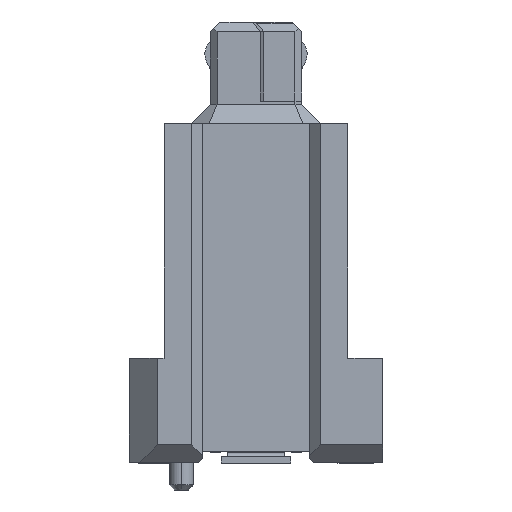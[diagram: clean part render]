
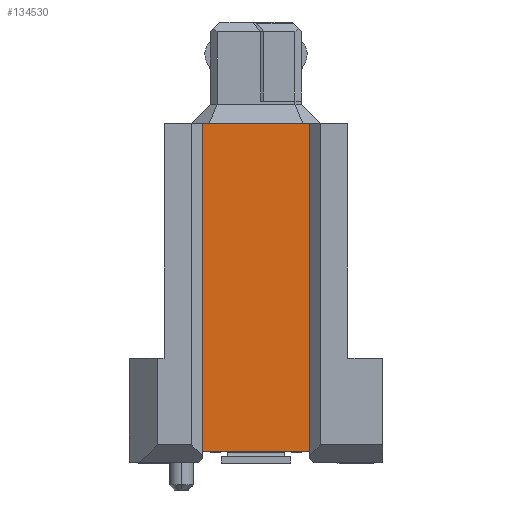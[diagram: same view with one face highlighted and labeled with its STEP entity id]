
A CAD part, left-side view. The second image highlights one B-rep face of the part: STEP entity #134530.
In plain terms, the highlighted planar face has unit normal (-1, 0, 0).
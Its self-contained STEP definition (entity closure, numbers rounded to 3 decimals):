
#83900=CARTESIAN_POINT('',(-10.032,4.41,4.2));
#83910=VERTEX_POINT('',#83900);
#84210=CARTESIAN_POINT('',(-10.032,-5.06,4.2));
#84220=VERTEX_POINT('',#84210);
#84250=CARTESIAN_POINT('',(-10.032,2.,4.2));
#84260=DIRECTION('',(0.,-1.,0.));
#84270=VECTOR('',#84260,1.);
#84280=LINE('',#84250,#84270);
#84290=EDGE_CURVE('',#83910,#84220,#84280,.T.);
#130420=CARTESIAN_POINT('',(-10.032,-5.06,1.1));
#130430=VERTEX_POINT('',#130420);
#130840=CARTESIAN_POINT('',(-10.032,4.41,1.1));
#130850=VERTEX_POINT('',#130840);
#130880=CARTESIAN_POINT('',(-10.032,-0.36,1.1));
#130890=DIRECTION('',(0.,1.,0.));
#130900=VECTOR('',#130890,1.);
#130910=LINE('',#130880,#130900);
#130920=EDGE_CURVE('',#130430,#130850,#130910,.T.);
#134320=CARTESIAN_POINT('',(-10.032,-2.36,5.3));
#134330=DIRECTION('',(-1.,0.,0.));
#134340=DIRECTION('',(0.,1.,0.));
#134350=AXIS2_PLACEMENT_3D('',#134320,#134330,#134340);
#134360=PLANE('',#134350);
#134370=CARTESIAN_POINT('',(-10.032,4.41,0.));
#134380=DIRECTION('',(0.,0.,-1.));
#134390=VECTOR('',#134380,1.);
#134400=LINE('',#134370,#134390);
#134410=EDGE_CURVE('',#83910,#130850,#134400,.T.);
#134420=ORIENTED_EDGE('',*,*,#134410,.T.);
#134430=ORIENTED_EDGE('',*,*,#84290,.F.);
#134440=CARTESIAN_POINT('',(-10.032,-5.06,0.));
#134450=DIRECTION('',(0.,0.,-1.));
#134460=VECTOR('',#134450,1.);
#134470=LINE('',#134440,#134460);
#134480=EDGE_CURVE('',#84220,#130430,#134470,.T.);
#134490=ORIENTED_EDGE('',*,*,#134480,.F.);
#134500=ORIENTED_EDGE('',*,*,#130920,.F.);
#134510=EDGE_LOOP('',(#134500,#134490,#134430,#134420));
#134520=FACE_OUTER_BOUND('',#134510,.T.);
#134530=ADVANCED_FACE('',(#134520),#134360,.T.);
